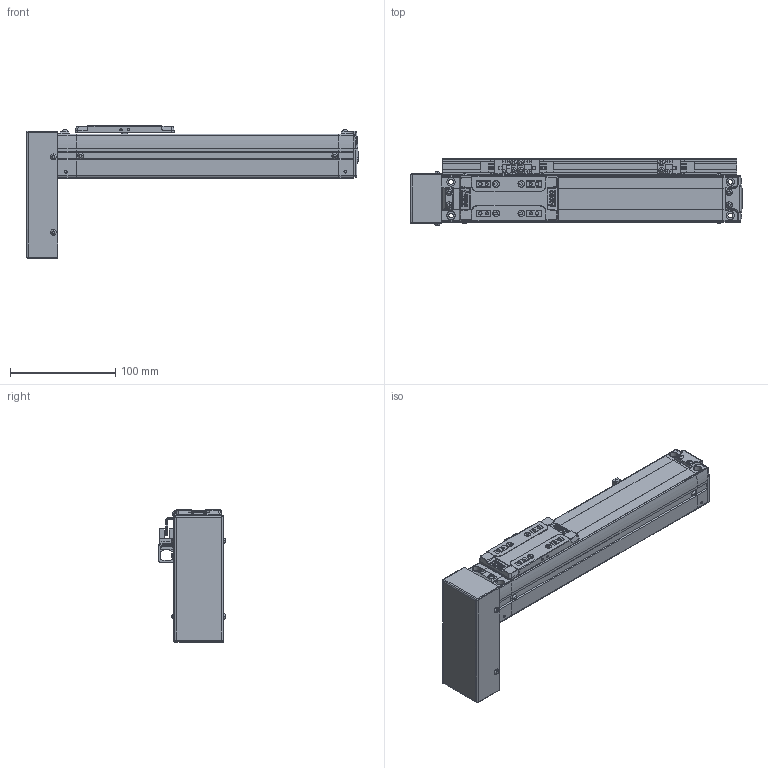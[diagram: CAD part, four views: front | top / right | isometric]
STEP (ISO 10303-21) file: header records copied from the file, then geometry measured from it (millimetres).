
FILE_DESCRIPTION(('STEP AP214'),'1');
FILE_NAME('Z:/Web/3D/SAN45/2013.ver/STP/SAN45-150PB+3SL.stp','2013-05-15T00:25:31',(' '),(' '),'Spatial InterOp 3D',' ',' ');
FILE_SCHEMA(('automotive_design'));
Length unit declared in the file: millimetre
Products named in the file (46): BTCV-SAN45; BHCS M3 X 6L; BODY-SAN45; REAR-SAN45; RRCV-SAN45; BHCS M3 x 6L; FRONT-SAN45; SHAFT; RN8 x 0.75; SSFX-SAN45; SLIDE-SAN45; SLCV-IM45; FHCS M3 x 6L; SRL-16x17-380L; EE-SX674; SBK-SX674-352; SDG-SA45; SCREW M3 x 5L
Bounding box: 316.15 x 64.06 x 126 mm (x, y, z)
Volume: 722398.9 mm3; surface area: 163023.8 mm2
Topology: 46 solids, 46 shells, 2319 faces, 5989 edges, 3849 vertices
Faces by surface type: plane 1288, cylinder 723, cone 142, sphere 84, bspline 44, torus 32, extrusion 6
Entity records: 93979 total; most frequent: CARTESIAN_POINT 16779, DIRECTION 12468, ORIENTED_EDGE 11846, EDGE_CURVE 5923, AXIS2_PLACEMENT_3D 4351, VERTEX_POINT 3849, VECTOR 3766, LINE 3760
